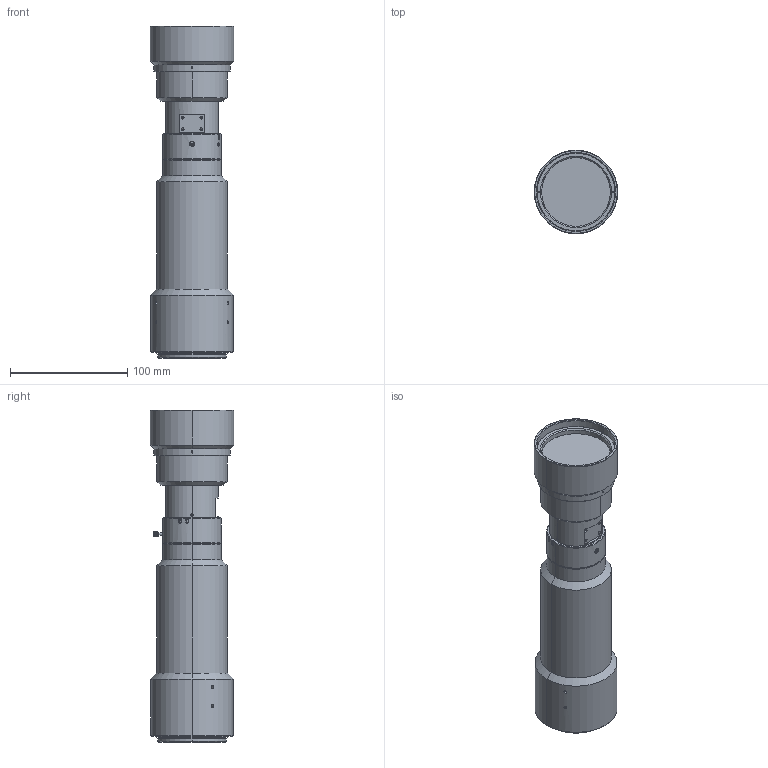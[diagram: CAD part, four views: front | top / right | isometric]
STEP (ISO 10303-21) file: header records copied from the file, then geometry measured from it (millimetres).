
FILE_DESCRIPTION (( 'STEP AP203' ), '1' );
FILE_NAME ('A22567A0000101A.STEP', '2016-11-30T08:13:14', ( '' ), ( '' ), 'SwSTEP 2.0', 'SolidWorks 2014', '' );
FILE_SCHEMA (( 'CONFIG_CONTROL_DESIGN' ));
Length unit declared in the file: millimetre
Products named in the file (1): A22567A0000101A
Bounding box: 71 x 71 x 282.64 mm (x, y, z)
Volume: 772010.5 mm3; surface area: 68580.2 mm2
Topology: 1 solids, 1 shells, 459 faces, 1180 edges, 760 vertices
Faces by surface type: cylinder 182, plane 165, cone 76, bspline 36
Entity records: 22259 total; most frequent: CARTESIAN_POINT 11802, ORIENTED_EDGE 2344, DIRECTION 1850, EDGE_CURVE 1172, VERTEX_POINT 760, AXIS2_PLACEMENT_3D 694, EDGE_LOOP 504, VECTOR 462
